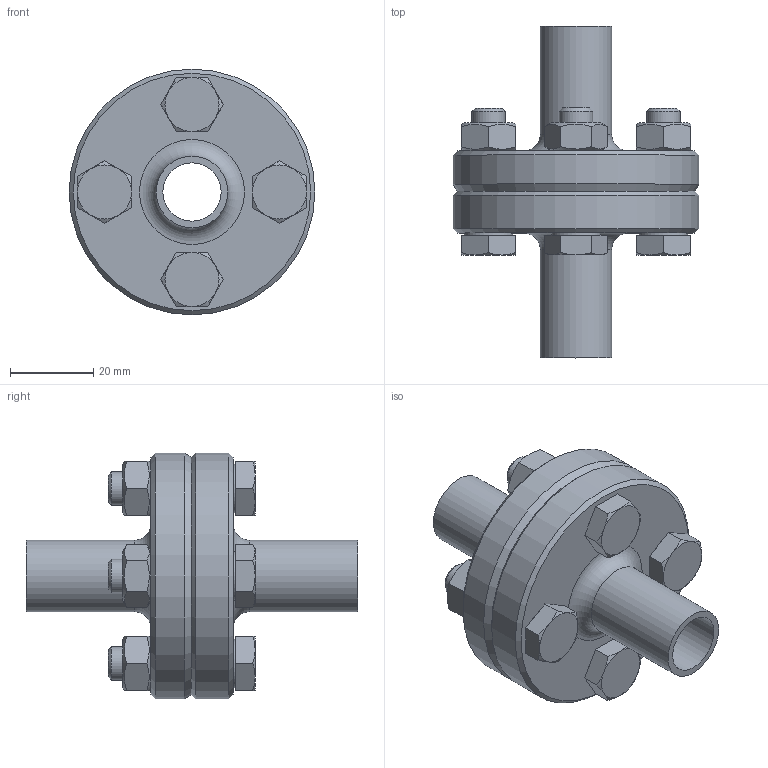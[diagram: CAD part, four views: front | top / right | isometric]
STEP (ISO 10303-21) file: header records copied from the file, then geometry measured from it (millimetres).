
FILE_DESCRIPTION(/* description */ ('DIN11864-2-A_17,2x1,6_L80_Fl59'),/* implementation_level */ '2;1');
FILE_NAME(/* name */ 'DIN11864-2-A_17,2x1,6_L80_Fl59.stp',/* time_stamp */ '2015-01-07T13:14:28+01:00',/* author */ ('DOCKWEILER AG'),/* organization */ ('DOCKWEILER AG'),/* preprocessor_version */ 'ST-DEVELOPER v15.6',/* originating_system */ 'Autodesk Inventor 2015',/* authorisation */ '');
FILE_SCHEMA (('CONFIG_CONTROL_DESIGN'));
Length unit declared in the file: millimetre
Products named in the file (6): N0003_007_003_14; N0003_007_004_14; N005_005_002_001_13; ISO 4032 - M8ISO; ISO 4017 - M8 x 30ISO; N0024_002_002
Assembly tree (11 placements, depth 2):
  N0024_002_002
    N0003_007_003_14
    N0003_007_004_14
    N005_005_002_001_13
    ISO 4032 - M8ISO  x4
    ISO 4017 - M8 x 30ISO  x4
Bounding box: 59 x 79.7 x 59 mm (x, y, z)
Volume: 62485.1 mm3; surface area: 29803.1 mm2
Topology: 11 solids, 11 shells, 174 faces, 362 edges, 222 vertices
Faces by surface type: plane 82, cone 52, cylinder 28, torus 12
Full cylindrical faces by diameter (mm): 6.647 x4, 8 x4, 9 x8, 11.63 x4, 14 x2, 17.2 x2, 26.3 x1, 26.4 x1, 59 x2
Entity records: 2080 total; most frequent: DIRECTION 352, CARTESIAN_POINT 352, ORIENTED_EDGE 228, AXIS2_PLACEMENT_3D 167, EDGE_LOOP 151, EDGE_CURVE 114, VERTEX_POINT 95, FACE_OUTER_BOUND 78
